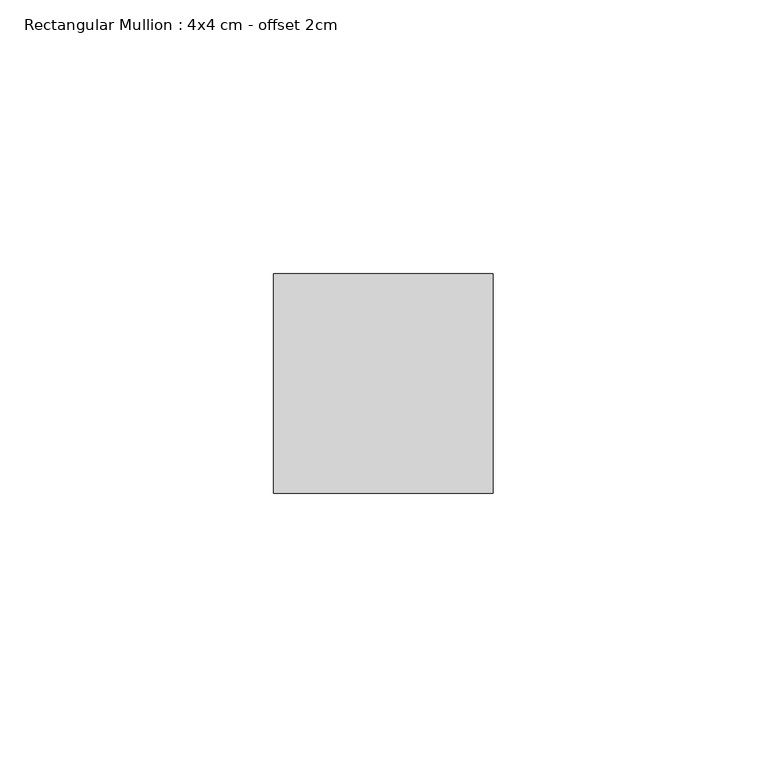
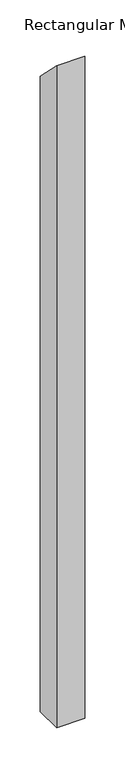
"""IFC4 building model written with IfcOpenShell, lengths in millimetres: member geometry, Rectangular Mullion : 4x4 cm - offset 2cm."""

from ifc_helpers import new_model, si_unit, frame, origin, place, context, project, spatial, polyline, outline, extrude, source, transform, mapped, element, save


def rectangular_mullion_4x4_cm_offset_2cm_564ef1b8(model_context):
    return source(origin(), model_context, "Body", "SweptSolid", [
        extrude(outline(polyline([(0.0, 0.0), (40.0, -40.0), (40.0, -1000.0000003), (0.0, -1000.0000003), (0.0, 0.0)])), frame((-40.0, 0.0, 0.0), z_axis=(1.0, 0.0, 0.0), x_axis=(0.0, 1.0, 0.0)), (0.0, 0.0, 1.0), 40.0),
    ])


if __name__ == "__main__":
    model = new_model("IFC4")
    model_context = context("Model", 3, world=origin())
    ifc_project = project(units=[si_unit("LENGTHUNIT", "METRE", prefix="MILLI")], contexts=[model_context])
    site = spatial("IfcSite", under=ifc_project)
    building = spatial("IfcBuilding", under=site)
    placement = place(None, origin())
    rectangular_mullion_4x4_cm_offset_2cm_shape = rectangular_mullion_4x4_cm_offset_2cm_564ef1b8(model_context)
    element("IfcMember", 1, ObjectType="Rectangular Mullion : 4x4 cm - offset 2cm", at=placement, inside=building, context=model_context, shape_type="MappedRepresentation", body=[
        mapped(rectangular_mullion_4x4_cm_offset_2cm_shape, transform((0.0, 0.0, 0.0), x_axis=(1.0, 0.0, 0.0), y_axis=(0.0, 1.0, 0.0), z_axis=(0.0, 0.0, 1.0))),
    ])
    save(model, "model.ifc")
